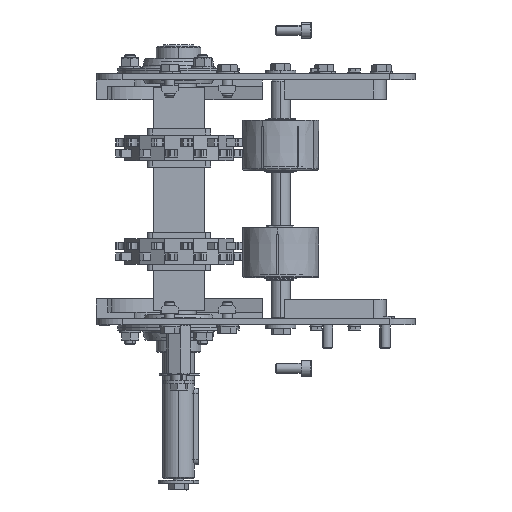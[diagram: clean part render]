
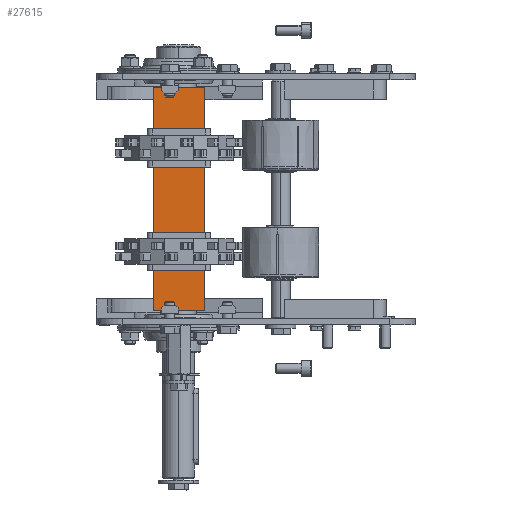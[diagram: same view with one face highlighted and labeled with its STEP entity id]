
A CAD part, left-side view. The second image highlights one B-rep face of the part: STEP entity #27615.
In plain terms, the highlighted planar face has unit normal (-1, 0, 0) as drawn and (1, 0, 0) by its records, which use the part's own axes.
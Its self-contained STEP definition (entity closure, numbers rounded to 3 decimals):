
#461 = ORIENTED_EDGE ( 'NONE', *, *, #29886, .F. ) ;
#2139 = VECTOR ( 'NONE', #36874, 1000. ) ;
#2235 = DIRECTION ( 'NONE',  ( 0., 1., 0. ) ) ;
#3037 = EDGE_CURVE ( 'NONE', #30235, #19684, #10130, .T. ) ;
#3513 = DIRECTION ( 'NONE',  ( 0., -1., 0. ) ) ;
#4139 = DIRECTION ( 'NONE',  ( 0., 0., -1. ) ) ;
#6281 = DIRECTION ( 'NONE',  ( -1., 0., 0. ) ) ;
#6629 = VERTEX_POINT ( 'NONE', #32954 ) ;
#7007 = CARTESIAN_POINT ( 'NONE',  ( 20., 20., -87.5 ) ) ;
#8639 = VECTOR ( 'NONE', #24238, 1000. ) ;
#10130 = LINE ( 'NONE', #19851, #26748 ) ;
#12736 = CARTESIAN_POINT ( 'NONE',  ( 20., -20., 87.5 ) ) ;
#14164 = CARTESIAN_POINT ( 'NONE',  ( 20., 20., 87.5 ) ) ;
#15811 = EDGE_LOOP ( 'NONE', ( #21536, #461, #25871, #17311 ) ) ;
#17311 = ORIENTED_EDGE ( 'NONE', *, *, #25196, .T. ) ;
#18105 = LINE ( 'NONE', #27355, #8639 ) ;
#19245 = LINE ( 'NONE', #12736, #34969 ) ;
#19684 = VERTEX_POINT ( 'NONE', #7007 ) ;
#19851 = CARTESIAN_POINT ( 'NONE',  ( 20., 20., -87.5 ) ) ;
#20793 = PLANE ( 'NONE',  #29004 ) ;
#21536 = ORIENTED_EDGE ( 'NONE', *, *, #3037, .T. ) ;
#22566 = EDGE_CURVE ( 'NONE', #6629, #26950, #18105, .T. ) ;
#24238 = DIRECTION ( 'NONE',  ( 0., 1., 0. ) ) ;
#24461 = FACE_OUTER_BOUND ( 'NONE', #15811, .T. ) ;
#25196 = EDGE_CURVE ( 'NONE', #6629, #30235, #19245, .T. ) ;
#25871 = ORIENTED_EDGE ( 'NONE', *, *, #22566, .F. ) ;
#26592 = CARTESIAN_POINT ( 'NONE',  ( 20., -20., -87.5 ) ) ;
#26748 = VECTOR ( 'NONE', #2235, 1000. ) ;
#26950 = VERTEX_POINT ( 'NONE', #34343 ) ;
#27355 = CARTESIAN_POINT ( 'NONE',  ( 20., 20., 87.5 ) ) ;
#27615 = ADVANCED_FACE ( 'NONE', ( #24461 ), #20793, .F. ) ;
#29004 = AXIS2_PLACEMENT_3D ( 'NONE', #34579, #6281, #3513 ) ;
#29886 = EDGE_CURVE ( 'NONE', #26950, #19684, #34953, .T. ) ;
#30235 = VERTEX_POINT ( 'NONE', #26592 ) ;
#32954 = CARTESIAN_POINT ( 'NONE',  ( 20., -20., 87.5 ) ) ;
#34343 = CARTESIAN_POINT ( 'NONE',  ( 20., 20., 87.5 ) ) ;
#34579 = CARTESIAN_POINT ( 'NONE',  ( 20., 20., 87.5 ) ) ;
#34953 = LINE ( 'NONE', #14164, #2139 ) ;
#34969 = VECTOR ( 'NONE', #4139, 1000. ) ;
#36874 = DIRECTION ( 'NONE',  ( 0., 0., -1. ) ) ;
